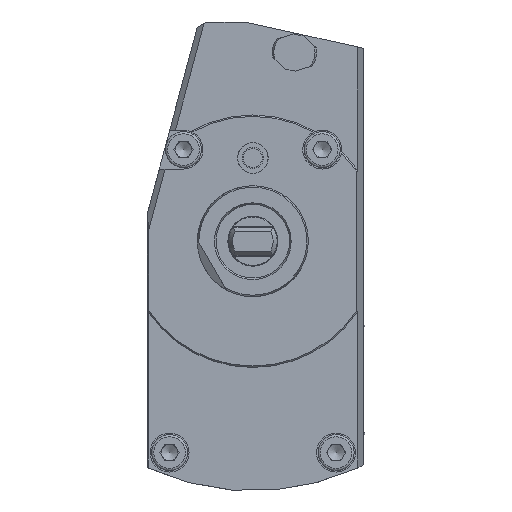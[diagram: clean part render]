
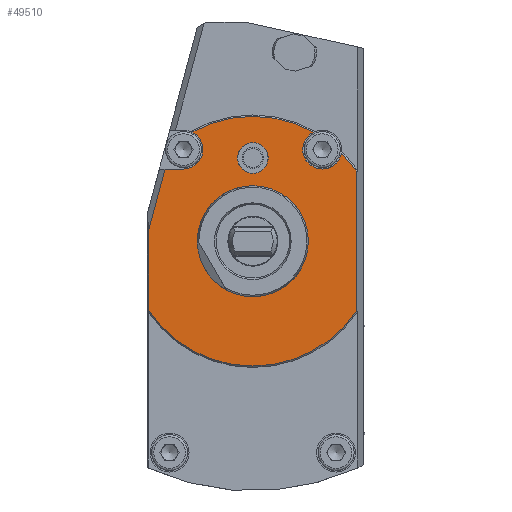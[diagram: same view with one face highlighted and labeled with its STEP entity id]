
A CAD part, left-side view. The second image highlights one B-rep face of the part: STEP entity #49510.
In plain terms, the highlighted planar face has unit normal (-1, 0, 0).
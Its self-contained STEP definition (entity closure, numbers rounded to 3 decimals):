
#20239=VECTOR('',#31066,1.);
#20240=VECTOR('',#31069,1.);
#20241=VECTOR('',#31076,1.);
#20242=VECTOR('',#31077,1.);
#21150=LINE('',#34803,#20239);
#21151=LINE('',#34807,#20240);
#21152=LINE('',#34814,#20241);
#21153=LINE('',#34815,#20242);
#22526=ORIENTED_EDGE('',*,*,#27380,.F.);
#22527=ORIENTED_EDGE('',*,*,#27381,.F.);
#22528=ORIENTED_EDGE('',*,*,#27382,.F.);
#22529=ORIENTED_EDGE('',*,*,#27383,.F.);
#22530=ORIENTED_EDGE('',*,*,#27384,.F.);
#22531=ORIENTED_EDGE('',*,*,#27385,.F.);
#22532=ORIENTED_EDGE('',*,*,#27377,.F.);
#22533=ORIENTED_EDGE('',*,*,#27386,.F.);
#22534=ORIENTED_EDGE('',*,*,#27387,.F.);
#22535=ORIENTED_EDGE('',*,*,#27388,.T.);
#22536=ORIENTED_EDGE('',*,*,#27389,.T.);
#25651=CIRCLE('',#47920,7.);
#25652=CIRCLE('',#47922,45.);
#25653=CIRCLE('',#47923,45.);
#25654=CIRCLE('',#47924,7.);
#25655=CIRCLE('',#47925,45.);
#25656=CIRCLE('',#47926,5.55);
#25657=CIRCLE('',#47927,19.853);
#26171=VERTEX_POINT('',#34790);
#26172=VERTEX_POINT('',#34791);
#26173=VERTEX_POINT('',#34801);
#26174=VERTEX_POINT('',#34802);
#26175=VERTEX_POINT('',#34804);
#26176=VERTEX_POINT('',#34806);
#26177=VERTEX_POINT('',#34808);
#26178=VERTEX_POINT('',#34810);
#26179=VERTEX_POINT('',#34813);
#26180=VERTEX_POINT('',#34816);
#26181=VERTEX_POINT('',#34818);
#27377=EDGE_CURVE('',#26171,#26172,#25651,.T.);
#27380=EDGE_CURVE('',#26173,#26174,#21150,.T.);
#27381=EDGE_CURVE('',#26175,#26173,#25652,.T.);
#27382=EDGE_CURVE('',#26176,#26175,#21151,.T.);
#27383=EDGE_CURVE('',#26177,#26176,#25653,.T.);
#27384=EDGE_CURVE('',#26178,#26177,#25654,.T.);
#27385=EDGE_CURVE('',#26172,#26178,#25655,.T.);
#27386=EDGE_CURVE('',#26179,#26171,#21152,.T.);
#27387=EDGE_CURVE('',#26174,#26179,#21153,.T.);
#27388=EDGE_CURVE('',#26180,#26180,#25656,.T.);
#27389=EDGE_CURVE('',#26181,#26181,#25657,.T.);
#28957=EDGE_LOOP('',(#22526,#22527,#22528,#22529,#22530,#22531,#22532,#22533,
#22534));
#28958=EDGE_LOOP('',(#22535));
#28959=EDGE_LOOP('',(#22536));
#29898=FACE_BOUND('',#28957,.T.);
#29899=FACE_BOUND('',#28958,.T.);
#29900=FACE_BOUND('',#28959,.T.);
#31061=DIRECTION('',(-1.,0.,0.));
#31062=DIRECTION('',(0.,0.,-7.));
#31064=DIRECTION('',(-1.,0.,0.));
#31065=DIRECTION('',(0.,1.,0.));
#31066=DIRECTION('',(0.,0.,29.013));
#31067=DIRECTION('',(1.,0.,0.));
#31068=DIRECTION('',(0.,-37.5,-24.875));
#31069=DIRECTION('',(0.,0.,-49.749));
#31070=DIRECTION('',(1.,0.,0.));
#31071=DIRECTION('',(0.,-31.888,31.752));
#31072=DIRECTION('',(-1.,0.,0.));
#31073=DIRECTION('',(0.,3.066,6.293));
#31074=DIRECTION('',(1.,0.,0.));
#31075=DIRECTION('',(0.,21.934,39.293));
#31076=DIRECTION('',(0.,-6.642,0.));
#31077=DIRECTION('',(0.,-5.858,21.861));
#31078=DIRECTION('',(1.,0.,0.));
#31079=DIRECTION('',(0.,-5.55,0.));
#31080=DIRECTION('',(1.,0.,0.));
#31081=DIRECTION('',(0.,0.,19.853));
#34790=CARTESIAN_POINT('',(0.,25.,26.));
#34791=CARTESIAN_POINT('',(0.,21.934,39.293));
#34792=CARTESIAN_POINT('',(0.,25.,33.));
#34800=CARTESIAN_POINT('',(0.,38.,10.));
#34801=CARTESIAN_POINT('',(0.,37.5,-24.875));
#34802=CARTESIAN_POINT('',(0.,37.5,4.139));
#34803=CARTESIAN_POINT('',(0.,37.5,-24.875));
#34804=CARTESIAN_POINT('',(0.,-37.5,-24.875));
#34805=CARTESIAN_POINT('',(0.,0.,0.));
#34806=CARTESIAN_POINT('',(0.,-37.5,24.875));
#34807=CARTESIAN_POINT('',(0.,-37.5,24.875));
#34808=CARTESIAN_POINT('',(0.,-31.888,31.752));
#34809=CARTESIAN_POINT('',(0.,0.,0.));
#34810=CARTESIAN_POINT('',(0.,-21.934,39.293));
#34811=CARTESIAN_POINT('',(0.,-25.,33.));
#34812=CARTESIAN_POINT('',(0.,0.,0.));
#34813=CARTESIAN_POINT('',(0.,31.642,26.));
#34814=CARTESIAN_POINT('',(0.,31.642,26.));
#34815=CARTESIAN_POINT('',(0.,37.5,4.139));
#34816=CARTESIAN_POINT('',(0.,-5.55,30.));
#34817=CARTESIAN_POINT('',(0.,0.,30.));
#34818=CARTESIAN_POINT('',(0.,0.,19.853));
#34819=CARTESIAN_POINT('',(0.,0.,0.));
#47920=AXIS2_PLACEMENT_3D('',#34792,#31061,#31062);
#47921=AXIS2_PLACEMENT_3D('',#34800,#31064,#31065);
#47922=AXIS2_PLACEMENT_3D('',#34805,#31067,#31068);
#47923=AXIS2_PLACEMENT_3D('',#34809,#31070,#31071);
#47924=AXIS2_PLACEMENT_3D('',#34811,#31072,#31073);
#47925=AXIS2_PLACEMENT_3D('',#34812,#31074,#31075);
#47926=AXIS2_PLACEMENT_3D('',#34817,#31078,#31079);
#47927=AXIS2_PLACEMENT_3D('',#34819,#31080,#31081);
#49056=PLANE('',#47921);
#49510=ADVANCED_FACE('',(#29898,#29899,#29900),#49056,.T.);
